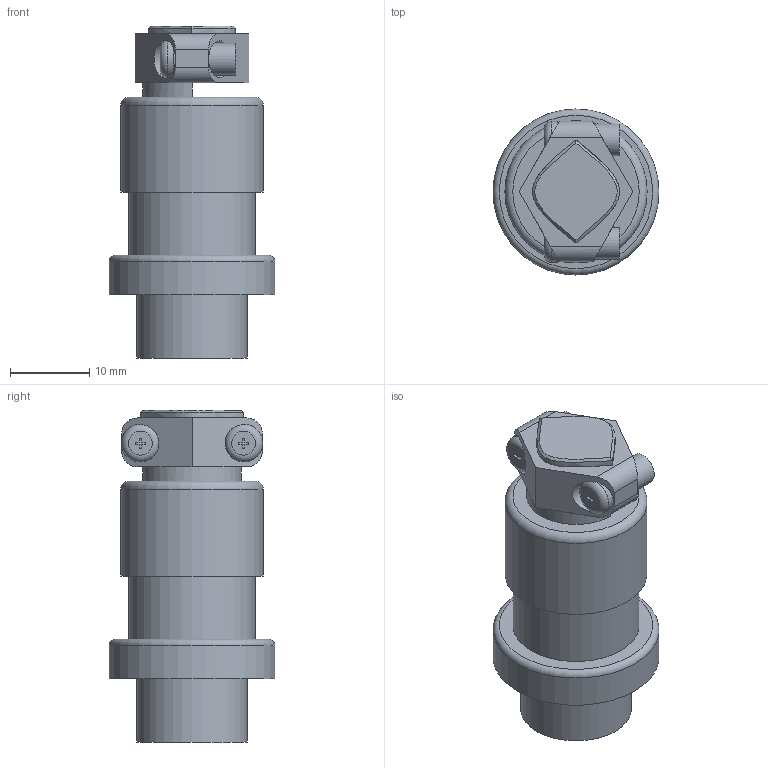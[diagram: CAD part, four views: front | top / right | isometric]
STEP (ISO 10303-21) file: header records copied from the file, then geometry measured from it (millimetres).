
FILE_DESCRIPTION (( 'STEP AP203' ), '1' );
FILE_NAME ('YISCK16-2(0).STEP', '2025-05-28T06:43:22', ( '' ), ( '' ), 'SwSTEP 2.0', 'SolidWorks 2021', '' );
FILE_SCHEMA (( 'CONFIG_CONTROL_DESIGN' ));
Length unit declared in the file: millimetre
Products named in the file (1): YISCK16-2(0)
Bounding box: 21 x 21 x 42 mm (x, y, z)
Volume: 8535.5 mm3; surface area: 4014.5 mm2
Topology: 1 solids, 1 shells, 81 faces, 195 edges, 129 vertices
Faces by surface type: plane 52, cylinder 21, torus 4, bspline 4
Full cylindrical faces by diameter (mm): 2.2 x2, 2.7 x1, 4 x2, 4.7 x2, 14 x1, 16 x2, 18 x1, 21 x1
Entity records: 2499 total; most frequent: CARTESIAN_POINT 672, ORIENTED_EDGE 348, DIRECTION 334, EDGE_CURVE 174, VERTEX_POINT 124, AXIS2_PLACEMENT_3D 114, EDGE_LOOP 114, LINE 106
